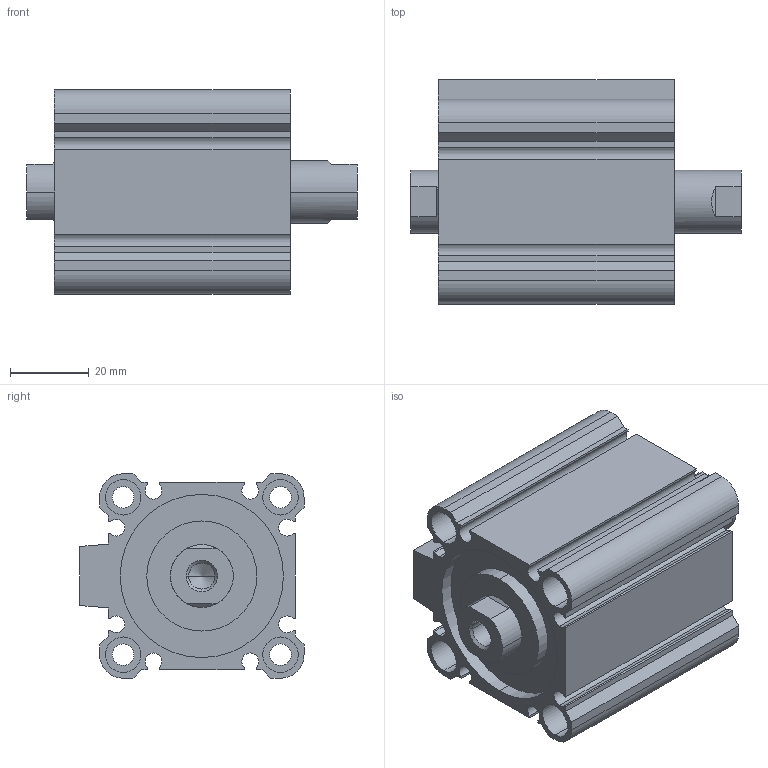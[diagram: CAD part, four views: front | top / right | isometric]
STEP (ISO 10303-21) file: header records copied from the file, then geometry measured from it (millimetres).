
FILE_DESCRIPTION (( 'STEP AP203' ), '1' );
FILE_NAME ('CCMB40-10F-P.STEP', '2020-08-05T11:23:08', ( '' ), ( '' ), 'SwSTEP 2.0', 'SolidWorks 2019', '' );
FILE_SCHEMA (( 'CONFIG_CONTROL_DESIGN' ));
Length unit declared in the file: millimetre
Products named in the file (1): CCMB40-10F-P
Bounding box: 84 x 57 x 52 mm (x, y, z)
Volume: 122375.6 mm3; surface area: 45384.2 mm2
Topology: 2 solids, 2 shells, 164 faces, 414 edges, 270 vertices
Faces by surface type: plane 78, cylinder 74, cone 12
Entity records: 5029 total; most frequent: DIRECTION 896, CARTESIAN_POINT 857, ORIENTED_EDGE 820, EDGE_CURVE 410, AXIS2_PLACEMENT_3D 325, VERTEX_POINT 270, VECTOR 246, LINE 246
